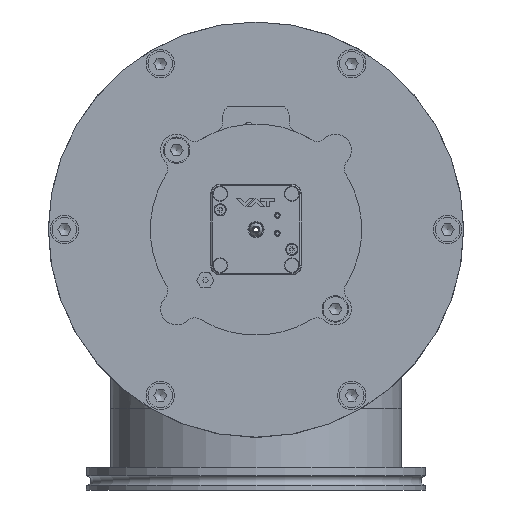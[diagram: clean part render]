
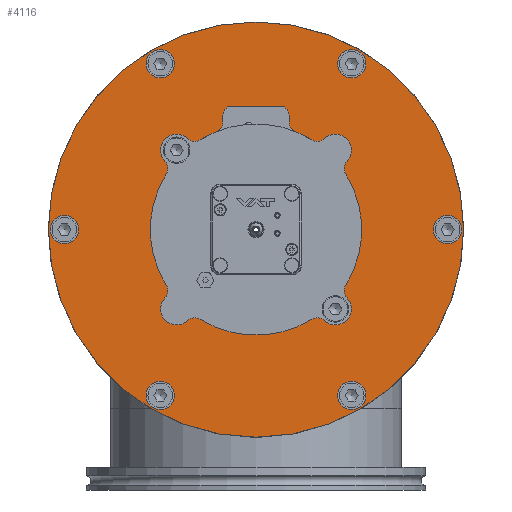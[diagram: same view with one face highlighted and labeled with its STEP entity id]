
A CAD part, left-side view. The second image highlights one B-rep face of the part: STEP entity #4116.
In plain terms, the highlighted planar face has unit normal (-1, 0, 0).
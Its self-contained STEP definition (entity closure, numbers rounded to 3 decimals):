
#4116=ADVANCED_FACE('BCT_REF_56940',(#5727,#5728,#5729,#5730,#5731,#5732,
#5733,#5734,#5735,#5736,#5737,#5738),#4610,.F.);
#4610=PLANE('',#14735);
#5139=CIRCLE('',#14721,110.);
#5141=CIRCLE('',#14724,3.4);
#5142=CIRCLE('',#14725,3.4);
#5143=CIRCLE('',#14726,3.4);
#5144=CIRCLE('',#14727,3.4);
#5145=CIRCLE('',#14728,7.5);
#5146=CIRCLE('',#14729,7.5);
#5147=CIRCLE('',#14730,7.5);
#5148=CIRCLE('',#14731,7.5);
#5149=CIRCLE('',#14732,7.5);
#5150=CIRCLE('',#14733,7.5);
#5151=CIRCLE('',#14734,55.145);
#5727=FACE_BOUND('',#6490,.T.);
#5728=FACE_BOUND('',#6491,.T.);
#5729=FACE_BOUND('',#6492,.T.);
#5730=FACE_BOUND('',#6493,.T.);
#5731=FACE_BOUND('',#6494,.T.);
#5732=FACE_BOUND('',#6495,.T.);
#5733=FACE_BOUND('',#6496,.T.);
#5734=FACE_BOUND('',#6497,.T.);
#5735=FACE_BOUND('',#6498,.T.);
#5736=FACE_BOUND('',#6499,.T.);
#5737=FACE_BOUND('',#6500,.T.);
#5738=FACE_BOUND('',#6501,.T.);
#6490=EDGE_LOOP('',(#8425));
#6491=EDGE_LOOP('',(#8426));
#6492=EDGE_LOOP('',(#8427));
#6493=EDGE_LOOP('',(#8428));
#6494=EDGE_LOOP('',(#8429));
#6495=EDGE_LOOP('',(#8430));
#6496=EDGE_LOOP('',(#8431));
#6497=EDGE_LOOP('',(#8432));
#6498=EDGE_LOOP('',(#8433));
#6499=EDGE_LOOP('',(#8434));
#6500=EDGE_LOOP('',(#8435));
#6501=EDGE_LOOP('',(#8436));
#8425=ORIENTED_EDGE('',*,*,#11801,.T.);
#8426=ORIENTED_EDGE('',*,*,#11802,.T.);
#8427=ORIENTED_EDGE('',*,*,#11803,.T.);
#8428=ORIENTED_EDGE('',*,*,#11804,.T.);
#8429=ORIENTED_EDGE('',*,*,#11805,.T.);
#8430=ORIENTED_EDGE('',*,*,#11806,.T.);
#8431=ORIENTED_EDGE('',*,*,#11807,.T.);
#8432=ORIENTED_EDGE('',*,*,#11808,.T.);
#8433=ORIENTED_EDGE('',*,*,#11809,.T.);
#8434=ORIENTED_EDGE('',*,*,#11810,.T.);
#8435=ORIENTED_EDGE('',*,*,#11811,.T.);
#8436=ORIENTED_EDGE('',*,*,#11797,.T.);
#10513=VERTEX_POINT('',#22236);
#10516=VERTEX_POINT('',#22244);
#10517=VERTEX_POINT('',#22246);
#10518=VERTEX_POINT('',#22248);
#10519=VERTEX_POINT('',#22250);
#10520=VERTEX_POINT('',#22252);
#10521=VERTEX_POINT('',#22254);
#10522=VERTEX_POINT('',#22256);
#10523=VERTEX_POINT('',#22258);
#10524=VERTEX_POINT('',#22260);
#10525=VERTEX_POINT('',#22262);
#10526=VERTEX_POINT('',#22264);
#11797=EDGE_CURVE('',#10513,#10513,#5139,.T.);
#11801=EDGE_CURVE('',#10516,#10516,#5141,.T.);
#11802=EDGE_CURVE('',#10517,#10517,#5142,.T.);
#11803=EDGE_CURVE('',#10518,#10518,#5143,.T.);
#11804=EDGE_CURVE('',#10519,#10519,#5144,.T.);
#11805=EDGE_CURVE('BCT_REF_65930',#10520,#10520,#5145,.T.);
#11806=EDGE_CURVE('',#10521,#10521,#5146,.T.);
#11807=EDGE_CURVE('',#10522,#10522,#5147,.T.);
#11808=EDGE_CURVE('',#10523,#10523,#5148,.T.);
#11809=EDGE_CURVE('',#10524,#10524,#5149,.T.);
#11810=EDGE_CURVE('',#10525,#10525,#5150,.T.);
#11811=EDGE_CURVE('',#10526,#10526,#5151,.T.);
#14721=AXIS2_PLACEMENT_3D('',#22235,#16923,#16924);
#14724=AXIS2_PLACEMENT_3D('',#22243,#16931,#16932);
#14725=AXIS2_PLACEMENT_3D('',#22245,#16933,#16934);
#14726=AXIS2_PLACEMENT_3D('',#22247,#16935,#16936);
#14727=AXIS2_PLACEMENT_3D('',#22249,#16937,#16938);
#14728=AXIS2_PLACEMENT_3D('',#22251,#16939,#16940);
#14729=AXIS2_PLACEMENT_3D('',#22253,#16941,#16942);
#14730=AXIS2_PLACEMENT_3D('',#22255,#16943,#16944);
#14731=AXIS2_PLACEMENT_3D('',#22257,#16945,#16946);
#14732=AXIS2_PLACEMENT_3D('',#22259,#16947,#16948);
#14733=AXIS2_PLACEMENT_3D('',#22261,#16949,#16950);
#14734=AXIS2_PLACEMENT_3D('',#22263,#16951,#16952);
#14735=AXIS2_PLACEMENT_3D('',#22265,#16953,#16954);
#16923=DIRECTION('',(-1.,0.,0.));
#16924=DIRECTION('',(0.,0.,1.));
#16931=DIRECTION('',(1.,0.,0.));
#16932=DIRECTION('',(0.,-1.,0.));
#16933=DIRECTION('',(1.,0.,0.));
#16934=DIRECTION('',(0.,0.,1.));
#16935=DIRECTION('',(1.,0.,0.));
#16936=DIRECTION('',(0.,1.,0.));
#16937=DIRECTION('',(1.,0.,0.));
#16938=DIRECTION('',(0.,0.,-1.));
#16939=DIRECTION('',(1.,0.,0.));
#16940=DIRECTION('',(0.,-0.866,-0.5));
#16941=DIRECTION('',(1.,0.,0.));
#16942=DIRECTION('',(0.,-0.866,0.5));
#16943=DIRECTION('',(1.,0.,0.));
#16944=DIRECTION('',(0.,0.,1.));
#16945=DIRECTION('',(1.,0.,0.));
#16946=DIRECTION('',(0.,0.866,0.5));
#16947=DIRECTION('',(1.,0.,0.));
#16948=DIRECTION('',(0.,0.866,-0.5));
#16949=DIRECTION('',(1.,0.,0.));
#16950=DIRECTION('',(0.,0.,-1.));
#16951=DIRECTION('',(1.,0.,0.));
#16952=DIRECTION('',(0.,0.,-1.));
#16953=DIRECTION('',(1.,0.,0.));
#16954=DIRECTION('',(0.,0.,-1.));
#22235=CARTESIAN_POINT('',(0.,0.,0.));
#22236=CARTESIAN_POINT('',(0.,0.,110.));
#22243=CARTESIAN_POINT('',(0.,-42.073,-42.073));
#22244=CARTESIAN_POINT('',(0.,-45.473,-42.073));
#22245=CARTESIAN_POINT('',(0.,-42.073,42.073));
#22246=CARTESIAN_POINT('',(0.,-42.073,45.473));
#22247=CARTESIAN_POINT('',(0.,42.073,42.073));
#22248=CARTESIAN_POINT('',(0.,45.473,42.073));
#22249=CARTESIAN_POINT('',(0.,42.073,-42.073));
#22250=CARTESIAN_POINT('',(0.,42.073,-45.473));
#22251=CARTESIAN_POINT('',(0.,50.75,-87.902));
#22252=CARTESIAN_POINT('',(0.,44.255,-91.652));
#22253=CARTESIAN_POINT('',(0.,-50.75,-87.902));
#22254=CARTESIAN_POINT('',(0.,-57.245,-84.152));
#22255=CARTESIAN_POINT('',(0.,-101.5,0.));
#22256=CARTESIAN_POINT('',(0.,-101.5,7.5));
#22257=CARTESIAN_POINT('',(0.,-50.75,87.902));
#22258=CARTESIAN_POINT('',(0.,-44.255,91.652));
#22259=CARTESIAN_POINT('',(0.,50.75,87.902));
#22260=CARTESIAN_POINT('',(0.,57.245,84.152));
#22261=CARTESIAN_POINT('',(0.,101.5,0.));
#22262=CARTESIAN_POINT('',(0.,101.5,-7.5));
#22263=CARTESIAN_POINT('',(0.,0.,0.));
#22264=CARTESIAN_POINT('',(0.,0.,-55.145));
#22265=CARTESIAN_POINT('',(0.,110.,0.));
